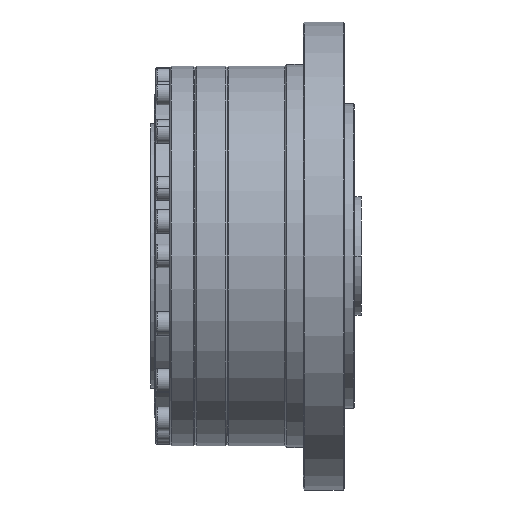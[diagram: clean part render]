
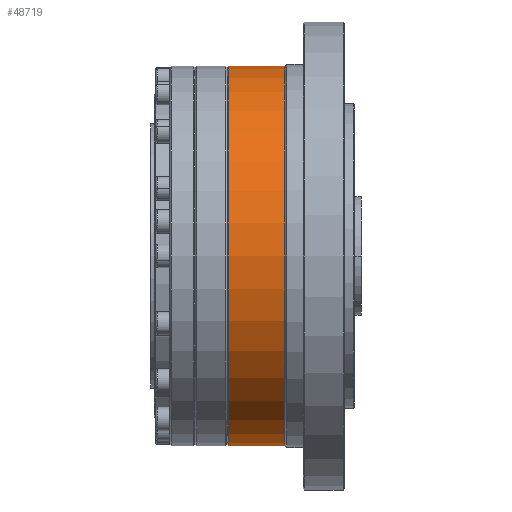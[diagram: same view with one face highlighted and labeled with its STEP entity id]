
A CAD part, front view. The second image highlights one B-rep face of the part: STEP entity #48719.
In plain terms, the highlighted cylindrical face has radius 56 mm (diameter 112 mm), a partial arc.
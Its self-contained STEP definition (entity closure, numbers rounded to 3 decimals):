
#349 = LINE ( 'NONE', #20219, #28953 ) ;
#373 = CIRCLE ( 'NONE', #17988, 56. ) ;
#4686 = DIRECTION ( 'NONE',  ( -1., 0., 0. ) ) ;
#4866 = EDGE_LOOP ( 'NONE', ( #57763, #74149, #61652, #20650 ) ) ;
#9016 = CARTESIAN_POINT ( 'NONE',  ( -159.699, 0., 0. ) ) ;
#9746 = CARTESIAN_POINT ( 'NONE',  ( 112.8, 0., 0. ) ) ;
#9851 = EDGE_CURVE ( 'NONE', #56511, #52975, #349, .T. ) ;
#9898 = CIRCLE ( 'NONE', #56448, 56. ) ;
#13917 = VERTEX_POINT ( 'NONE', #56643 ) ;
#15089 = CARTESIAN_POINT ( 'NONE',  ( 112.8, 0., -56. ) ) ;
#15229 = LINE ( 'NONE', #73308, #30461 ) ;
#15536 = DIRECTION ( 'NONE',  ( 0., 0., 1. ) ) ;
#17988 = AXIS2_PLACEMENT_3D ( 'NONE', #9746, #49855, #15536 ) ;
#20219 = CARTESIAN_POINT ( 'NONE',  ( -159.699, 0., 56. ) ) ;
#20650 = ORIENTED_EDGE ( 'NONE', *, *, #68365, .T. ) ;
#20867 = AXIS2_PLACEMENT_3D ( 'NONE', #9016, #47345, #43583 ) ;
#24502 = CARTESIAN_POINT ( 'NONE',  ( 129.5, 0., 56. ) ) ;
#24936 = CARTESIAN_POINT ( 'NONE',  ( 129.5, 0., 0. ) ) ;
#26000 = DIRECTION ( 'NONE',  ( -1., 0., 0. ) ) ;
#28953 = VECTOR ( 'NONE', #26000, 1000. ) ;
#29707 = CARTESIAN_POINT ( 'NONE',  ( 112.8, 0., 56. ) ) ;
#30461 = VECTOR ( 'NONE', #4686, 1000. ) ;
#30714 = DIRECTION ( 'NONE',  ( 0., 0., 1. ) ) ;
#31037 = FACE_OUTER_BOUND ( 'NONE', #4866, .T. ) ;
#43583 = DIRECTION ( 'NONE',  ( 0., 0., 1. ) ) ;
#47345 = DIRECTION ( 'NONE',  ( -1., 0., 0. ) ) ;
#48719 = ADVANCED_FACE ( 'NONE', ( #31037 ), #52569, .T. ) ;
#49855 = DIRECTION ( 'NONE',  ( 1., 0., 0. ) ) ;
#52569 = CYLINDRICAL_SURFACE ( 'NONE', #20867, 56. ) ;
#52975 = VERTEX_POINT ( 'NONE', #29707 ) ;
#53248 = VERTEX_POINT ( 'NONE', #15089 ) ;
#56448 = AXIS2_PLACEMENT_3D ( 'NONE', #24936, #65030, #30714 ) ;
#56511 = VERTEX_POINT ( 'NONE', #24502 ) ;
#56643 = CARTESIAN_POINT ( 'NONE',  ( 129.5, 0., -56. ) ) ;
#57763 = ORIENTED_EDGE ( 'NONE', *, *, #61046, .F. ) ;
#61046 = EDGE_CURVE ( 'NONE', #13917, #53248, #15229, .T. ) ;
#61652 = ORIENTED_EDGE ( 'NONE', *, *, #9851, .T. ) ;
#64764 = EDGE_CURVE ( 'NONE', #13917, #56511, #9898, .T. ) ;
#65030 = DIRECTION ( 'NONE',  ( -1., 0., 0. ) ) ;
#68365 = EDGE_CURVE ( 'NONE', #52975, #53248, #373, .T. ) ;
#73308 = CARTESIAN_POINT ( 'NONE',  ( -159.699, 0., -56. ) ) ;
#74149 = ORIENTED_EDGE ( 'NONE', *, *, #64764, .T. ) ;
